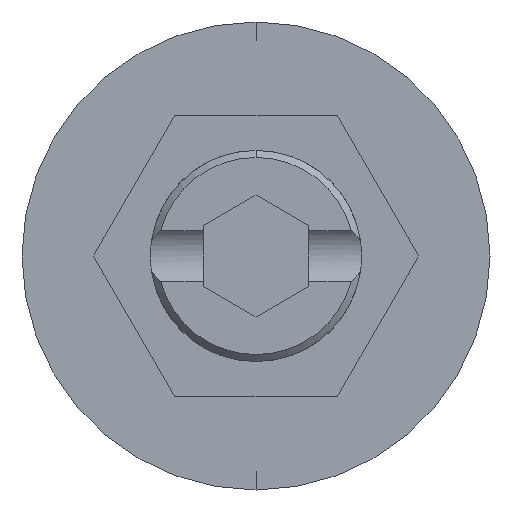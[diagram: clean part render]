
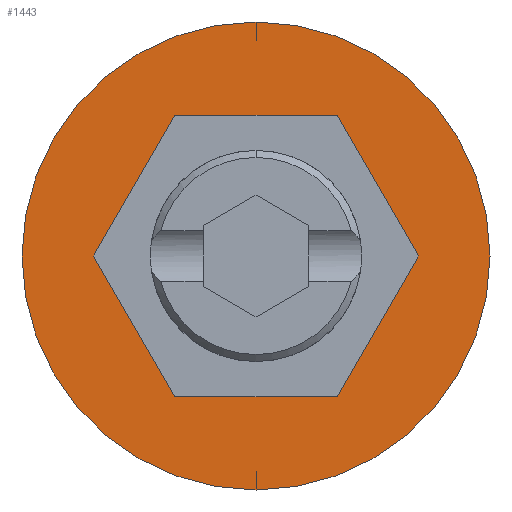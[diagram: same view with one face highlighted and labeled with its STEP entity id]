
A CAD part, front view. The second image highlights one B-rep face of the part: STEP entity #1443.
In plain terms, the highlighted planar face has unit normal (0, -1, 0).
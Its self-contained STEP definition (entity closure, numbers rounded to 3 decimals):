
#7 = CARTESIAN_POINT ( 'NONE',  ( 4.619, 0., 0. ) ) ;
#35 = CARTESIAN_POINT ( 'NONE',  ( -2.309, 0., 4. ) ) ;
#68 = VERTEX_POINT ( 'NONE', #1798 ) ;
#73 = EDGE_CURVE ( 'NONE', #68, #1809, #1462, .T. ) ;
#126 = VECTOR ( 'NONE', #1643, 1000. ) ;
#218 = EDGE_LOOP ( 'NONE', ( #1837, #1858 ) ) ;
#223 = CARTESIAN_POINT ( 'NONE',  ( 0., 0., 0. ) ) ;
#235 = VECTOR ( 'NONE', #896, 1000. ) ;
#243 = DIRECTION ( 'NONE',  ( 0., -1., 0. ) ) ;
#248 = DIRECTION ( 'NONE',  ( 0., 0., -1. ) ) ;
#279 = PLANE ( 'NONE',  #829 ) ;
#311 = CARTESIAN_POINT ( 'NONE',  ( 2.309, 0., 4. ) ) ;
#336 = CARTESIAN_POINT ( 'NONE',  ( 0., 0., 0. ) ) ;
#345 = DIRECTION ( 'NONE',  ( 0., -1., 0. ) ) ;
#354 = VERTEX_POINT ( 'NONE', #1757 ) ;
#357 = DIRECTION ( 'NONE',  ( 0., 0., -1. ) ) ;
#382 = EDGE_CURVE ( 'NONE', #1809, #1884, #1270, .T. ) ;
#403 = CIRCLE ( 'NONE', #1680, 6.65 ) ;
#422 = DIRECTION ( 'NONE',  ( -0.5, 0., 0.866 ) ) ;
#458 = DIRECTION ( 'NONE',  ( 0.5, 0., -0.866 ) ) ;
#478 = VERTEX_POINT ( 'NONE', #917 ) ;
#532 = AXIS2_PLACEMENT_3D ( 'NONE', #2078, #2151, #2155 ) ;
#558 = VECTOR ( 'NONE', #1350, 1000. ) ;
#638 = VERTEX_POINT ( 'NONE', #977 ) ;
#795 = CARTESIAN_POINT ( 'NONE',  ( 0., 0., -6.65 ) ) ;
#829 = AXIS2_PLACEMENT_3D ( 'NONE', #336, #345, #357 ) ;
#854 = VECTOR ( 'NONE', #422, 1000. ) ;
#881 = CARTESIAN_POINT ( 'NONE',  ( -2.309, 0., -4. ) ) ;
#896 = DIRECTION ( 'NONE',  ( 1., 0., 0. ) ) ;
#917 = CARTESIAN_POINT ( 'NONE',  ( -4.619, 0., 0. ) ) ;
#923 = LINE ( 'NONE', #35, #2161 ) ;
#952 = VERTEX_POINT ( 'NONE', #2002 ) ;
#977 = CARTESIAN_POINT ( 'NONE',  ( 0., 0., 6.65 ) ) ;
#1058 = EDGE_CURVE ( 'NONE', #478, #354, #2016, .T. ) ;
#1212 = EDGE_CURVE ( 'NONE', #1884, #478, #923, .T. ) ;
#1227 = CARTESIAN_POINT ( 'NONE',  ( 2.309, 0., -4. ) ) ;
#1270 = LINE ( 'NONE', #1618, #126 ) ;
#1289 = EDGE_LOOP ( 'NONE', ( #1465, #1551, #1522, #1649, #1677, #1741 ) ) ;
#1350 = DIRECTION ( 'NONE',  ( 0.5, 0., 0.866 ) ) ;
#1443 = ADVANCED_FACE ( 'NONE', ( #1805, #1756 ), #279, .T. ) ;
#1460 = LINE ( 'NONE', #1227, #558 ) ;
#1462 = LINE ( 'NONE', #7, #854 ) ;
#1465 = ORIENTED_EDGE ( 'NONE', *, *, #2030, .F. ) ;
#1495 = LINE ( 'NONE', #881, #235 ) ;
#1522 = ORIENTED_EDGE ( 'NONE', *, *, #1212, .F. ) ;
#1551 = ORIENTED_EDGE ( 'NONE', *, *, #1058, .F. ) ;
#1588 = VECTOR ( 'NONE', #458, 1000. ) ;
#1609 = EDGE_CURVE ( 'NONE', #952, #68, #1460, .T. ) ;
#1618 = CARTESIAN_POINT ( 'NONE',  ( 2.309, 0., 4. ) ) ;
#1643 = DIRECTION ( 'NONE',  ( -1., 0., 0. ) ) ;
#1649 = ORIENTED_EDGE ( 'NONE', *, *, #382, .F. ) ;
#1677 = ORIENTED_EDGE ( 'NONE', *, *, #73, .F. ) ;
#1680 = AXIS2_PLACEMENT_3D ( 'NONE', #223, #243, #248 ) ;
#1690 = EDGE_CURVE ( 'NONE', #2021, #638, #2158, .T. ) ;
#1734 = CARTESIAN_POINT ( 'NONE',  ( -2.309, 0., 4. ) ) ;
#1740 = CARTESIAN_POINT ( 'NONE',  ( -4.619, 0., 0. ) ) ;
#1741 = ORIENTED_EDGE ( 'NONE', *, *, #1609, .F. ) ;
#1756 = FACE_OUTER_BOUND ( 'NONE', #218, .T. ) ;
#1757 = CARTESIAN_POINT ( 'NONE',  ( -2.309, 0., -4. ) ) ;
#1759 = DIRECTION ( 'NONE',  ( -0.5, 0., -0.866 ) ) ;
#1798 = CARTESIAN_POINT ( 'NONE',  ( 4.619, 0., 0. ) ) ;
#1805 = FACE_BOUND ( 'NONE', #1289, .T. ) ;
#1809 = VERTEX_POINT ( 'NONE', #311 ) ;
#1837 = ORIENTED_EDGE ( 'NONE', *, *, #1690, .T. ) ;
#1858 = ORIENTED_EDGE ( 'NONE', *, *, #1917, .T. ) ;
#1884 = VERTEX_POINT ( 'NONE', #1734 ) ;
#1917 = EDGE_CURVE ( 'NONE', #638, #2021, #403, .T. ) ;
#2002 = CARTESIAN_POINT ( 'NONE',  ( 2.309, 0., -4. ) ) ;
#2016 = LINE ( 'NONE', #1740, #1588 ) ;
#2021 = VERTEX_POINT ( 'NONE', #795 ) ;
#2030 = EDGE_CURVE ( 'NONE', #354, #952, #1495, .T. ) ;
#2078 = CARTESIAN_POINT ( 'NONE',  ( 0., 0., 0. ) ) ;
#2151 = DIRECTION ( 'NONE',  ( 0., -1., 0. ) ) ;
#2155 = DIRECTION ( 'NONE',  ( 0., 0., -1. ) ) ;
#2158 = CIRCLE ( 'NONE', #532, 6.65 ) ;
#2161 = VECTOR ( 'NONE', #1759, 1000. ) ;
